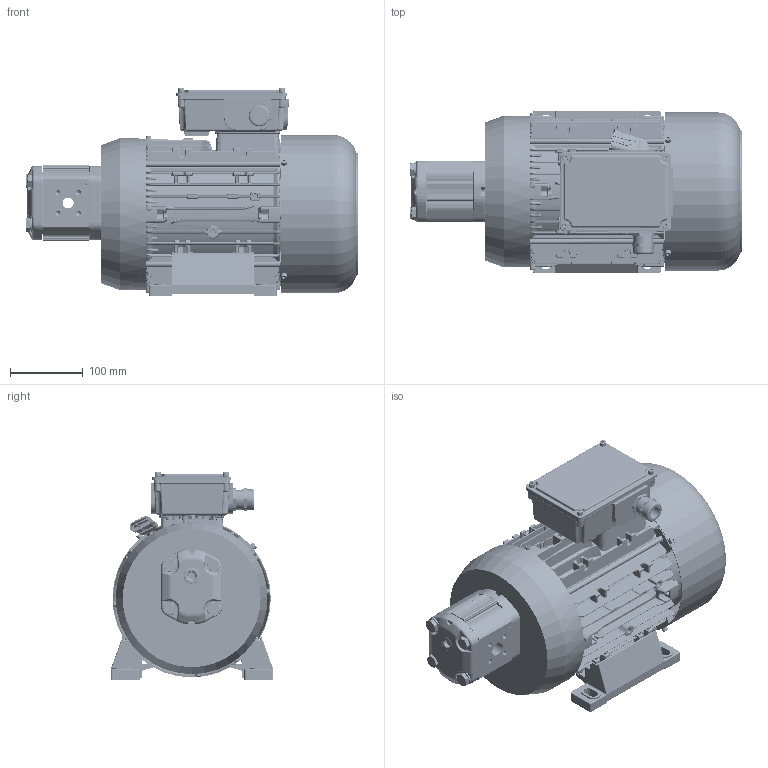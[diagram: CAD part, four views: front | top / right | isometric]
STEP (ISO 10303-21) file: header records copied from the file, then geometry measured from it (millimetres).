
FILE_DESCRIPTION(/* description */ (''),/* implementation_level */ '2;1');
FILE_NAME(/* name */ 'Z:\SITO WEB 2023\Elettropompe\Elettropompe AC\D.173 mm\AMP173.GR2.stp',/* time_stamp */ '2023-09-18T16:32:38+02:00',/* author */ ('cad3'),/* organization */ (''),/* preprocessor_version */ 'ST-DEVELOPER v18.1',/* originating_system */ 'Autodesk Inventor 2022',/* authorisation */ '');
FILE_SCHEMA (('AUTOMOTIVE_DESIGN { 1 0 10303 214 3 1 1 }'));
Length unit declared in the file: millimetre
Products named in the file (1): AMP173.GR2
Bounding box: 457.2 x 224 x 285.2 mm (x, y, z)
Volume: 3577668.1 mm3; surface area: 1223428.7 mm2
Topology: 102 solids, 152 shells, 15552 faces, 39136 edges, 23667 vertices
Faces by surface type: plane 6641, bspline 3622, cylinder 3482, cone 753, torus 745, sphere 309
Full cylindrical faces by diameter (mm): 2 x6, 3 x9, 3.2 x4, 3.242 x1, 4 x13, 4.134 x15, 4.917 x9, 5 x29, 5.3 x8, 5.5 x12, 6 x2, 6.2 x2, 6.4 x1, 6.5 x1, 6.6 x2, 6.647 x12, 7 x1, 8 x9, 8.376 x4, 8.4 x4, 8.5 x19, 8.6 x2, 9 x2, 9.5 x4, 10 x4, 10.5 x14, 13 x4, 14 x8, 14.63 x2, 15 x4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
Entity records: 698326 total; most frequent: CARTESIAN_POINT 323417, ORIENTED_EDGE 77936, DIRECTION 72779, EDGE_CURVE 38968, AXIS2_PLACEMENT_3D 27117, VERTEX_POINT 23859, LINE 18545, VECTOR 18545
